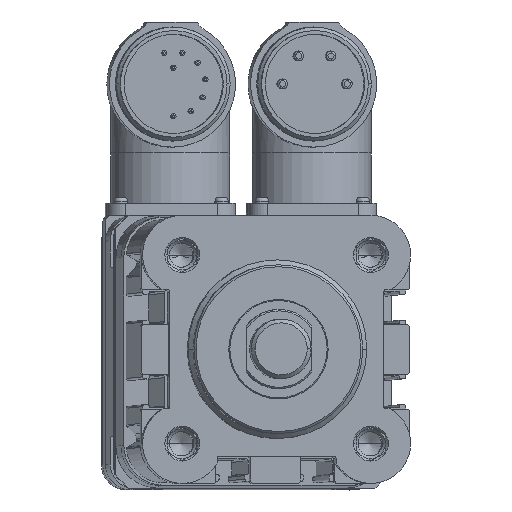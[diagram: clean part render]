
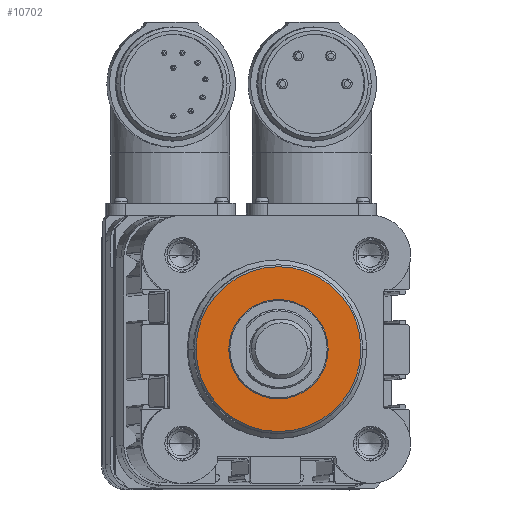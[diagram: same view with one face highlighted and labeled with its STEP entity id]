
A CAD part, top view. The second image highlights one B-rep face of the part: STEP entity #10702.
In plain terms, the highlighted planar face has unit normal (0.018, 0, 1) as drawn and (0, 0, 1) by its records, which use the part's own axes.
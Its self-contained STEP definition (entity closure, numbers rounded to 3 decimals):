
#2601 = EDGE_CURVE ( 'NONE', #10028, #10031, #13557, .T. ) ;
#2602 = EDGE_CURVE ( 'NONE', #10032, #10035, #13558, .T. ) ;
#3854 = ORIENTED_EDGE ( 'NONE', *, *, #2601, .T. ) ;
#3856 = ORIENTED_EDGE ( 'NONE', *, *, #2602, .T. ) ;
#3858 = ORIENTED_EDGE ( 'NONE', *, *, #8487, .T. ) ;
#3859 = ORIENTED_EDGE ( 'NONE', *, *, #8491, .T. ) ;
#8487 = EDGE_CURVE ( 'NONE', #10035, #10032, #26258, .T. ) ;
#8491 = EDGE_CURVE ( 'NONE', #10031, #10028, #26260, .T. ) ;
#10028 = VERTEX_POINT ( 'NONE', #35888 ) ;
#10031 = VERTEX_POINT ( 'NONE', #35891 ) ;
#10032 = VERTEX_POINT ( 'NONE', #35892 ) ;
#10035 = VERTEX_POINT ( 'NONE', #35895 ) ;
#10702 = ADVANCED_FACE ( 'NONE', ( #40598, #40600 ), #39965, .T. ) ;
#12225 = EDGE_LOOP ( 'NONE', ( #3856, #3858 ) ) ;
#12226 = EDGE_LOOP ( 'NONE', ( #3854, #3859 ) ) ;
#13557 = CIRCLE ( 'NONE', #20387, 16.6 ) ;
#13558 = CIRCLE ( 'NONE', #20388, 10. ) ;
#20114 = CARTESIAN_POINT ( 'NONE',  ( 0., 0., 21. ) ) ;
#20115 = DIRECTION ( 'NONE',  ( 0., 0., 1. ) ) ;
#20116 = DIRECTION ( 'NONE',  ( -1., 0., 0. ) ) ;
#20117 = CARTESIAN_POINT ( 'NONE',  ( 0., 0., 21. ) ) ;
#20118 = DIRECTION ( 'NONE',  ( 0., 0., -1. ) ) ;
#20119 = DIRECTION ( 'NONE',  ( -1., 0., 0. ) ) ;
#20387 = AXIS2_PLACEMENT_3D ( 'NONE', #20114, #20115, #20116 ) ;
#20388 = AXIS2_PLACEMENT_3D ( 'NONE', #20117, #20118, #20119 ) ;
#26258 = CIRCLE ( 'NONE', #36099, 10. ) ;
#26260 = CIRCLE ( 'NONE', #36103, 16.6 ) ;
#35228 = CARTESIAN_POINT ( 'NONE',  ( 0., 0., 21. ) ) ;
#35235 = DIRECTION ( 'NONE',  ( 0., 0., -1. ) ) ;
#35236 = DIRECTION ( 'NONE',  ( -1., 0., 0. ) ) ;
#35240 = CARTESIAN_POINT ( 'NONE',  ( 0., 0., 21. ) ) ;
#35247 = DIRECTION ( 'NONE',  ( 0., 0., 1. ) ) ;
#35248 = DIRECTION ( 'NONE',  ( -1., 0., 0. ) ) ;
#35888 = CARTESIAN_POINT ( 'NONE',  ( -16.6, 0., 21. ) ) ;
#35891 = CARTESIAN_POINT ( 'NONE',  ( 16.6, 0., 21. ) ) ;
#35892 = CARTESIAN_POINT ( 'NONE',  ( -10., 0., 21. ) ) ;
#35895 = CARTESIAN_POINT ( 'NONE',  ( 10., 0., 21. ) ) ;
#36099 = AXIS2_PLACEMENT_3D ( 'NONE', #35228, #35235, #35236 ) ;
#36103 = AXIS2_PLACEMENT_3D ( 'NONE', #35240, #35247, #35248 ) ;
#39965 = PLANE ( 'NONE',  #40603 ) ;
#39966 = CARTESIAN_POINT ( 'NONE',  ( 0., 8.3, 21. ) ) ;
#39967 = DIRECTION ( 'NONE',  ( 0., 0., 1. ) ) ;
#39968 = DIRECTION ( 'NONE',  ( 1., 0., 0. ) ) ;
#40598 = FACE_BOUND ( 'NONE', #12225, .T. ) ;
#40600 = FACE_OUTER_BOUND ( 'NONE', #12226, .T. ) ;
#40603 = AXIS2_PLACEMENT_3D ( 'NONE', #39966, #39967, #39968 ) ;
